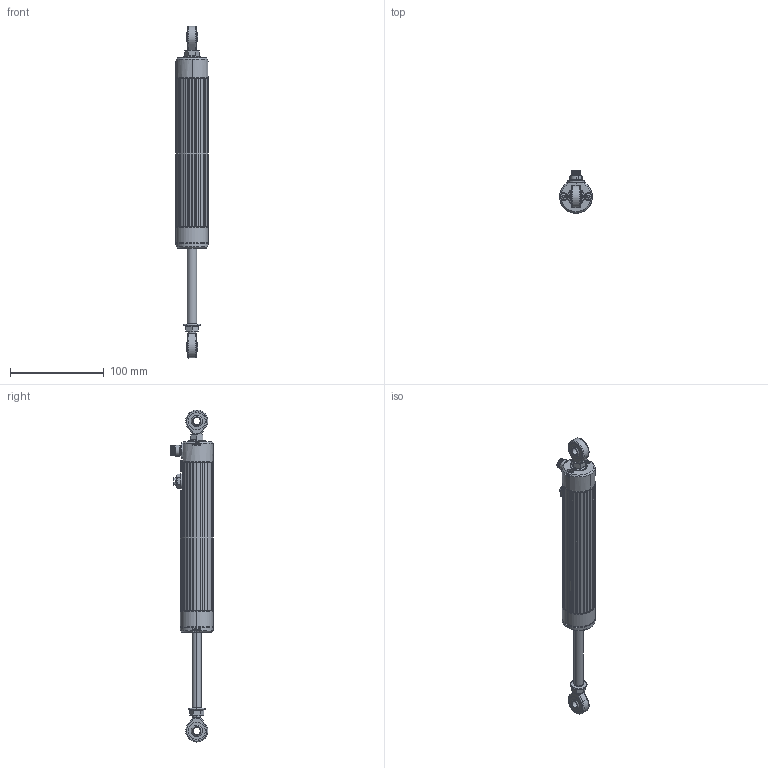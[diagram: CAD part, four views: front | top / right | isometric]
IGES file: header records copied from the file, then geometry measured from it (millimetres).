
Start section: SolidWorks IGES file using analytic representation for surfaces
Global section: file name: I:\Zeichnungen_EK-VM\ZUR BEARBEITUNG\neu_sz\LWX-001\housing\0075.IGS; native system: SolidWorks 2009; preprocessor: SolidWorks 2009; author: salzinger; date: 090128.090115; units: millimetre
Bounding box: 35 x 45.1 x 353.6 mm (x, y, z)
Volume: 211468.4 mm3; surface area: 57648.3 mm2
Topology: 30 solids, 30 shells, 1046 faces, 5568 edges, 7235 vertices
Faces by surface type: revolution 652, plane 324, bspline 70
